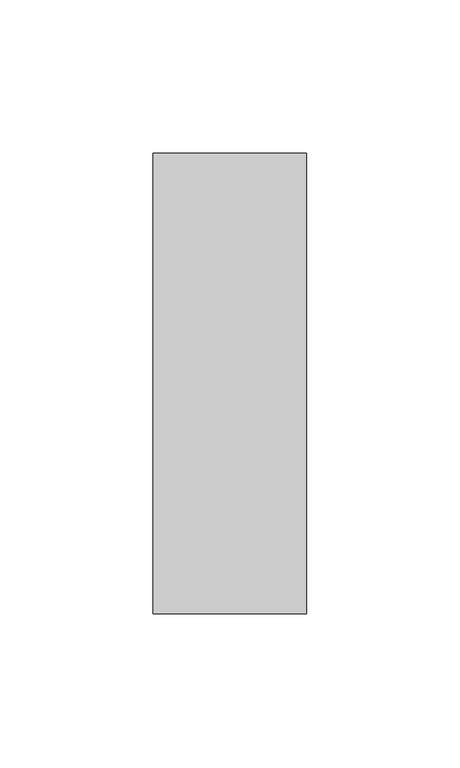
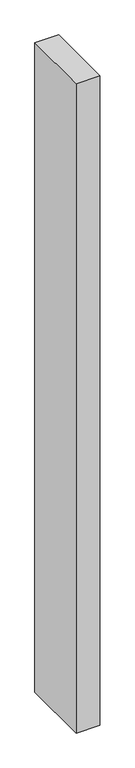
"""IFC4 building model written with IfcOpenShell, lengths in millimetres: member geometry, Прямоугольный импост : 50 x 150 мм."""

import ifcopenshell
import ifcopenshell.guid

model = None  # the IFC model being written
_history = None  # IfcOwnerHistory: only IFC2X3 demands one
_inside = {}  # id of a spatial element -> (the spatial element, [elements in it])
_under = {}  # id of a project, library or spatial element -> (it, [spatial elements below it])
_declared = {}  # id of a project -> (the project, [libraries it declares])
_typed = {}  # id of a type object -> (the type object, [elements of that type])
_made_of = {}  # id of a material, layer set ... -> (it, [elements and type objects made of it])


def new_model(schema):
    """Start an empty IFC model of exactly this schema.

    Asked for "IFC4X3", IfcOpenShell would pick the latest addendum, in which some entities
    have other attributes; the version numbers below select the first issue.
    IFC2X3 requires an IfcOwnerHistory on every rooted entity: one is made here for all.
    """
    global model, _history
    if schema == "IFC4X3":
        model = ifcopenshell.file(schema_version=(4, 3, 0, 0))
    else:
        model = ifcopenshell.file(schema=schema)
    _inside.clear()
    _under.clear()
    _declared.clear()
    _typed.clear()
    _made_of.clear()
    _history = None
    if model.schema == "IFC2X3":
        org = make("IfcOrganization", Name="unknown")
        user = make(
            "IfcPersonAndOrganization",
            ThePerson=make("IfcPerson", FamilyName="unknown"),
            TheOrganization=org,
        )
        app = make(
            "IfcApplication",
            ApplicationDeveloper=org,
            Version="unknown",
            ApplicationFullName="unknown",
            ApplicationIdentifier="unknown",
        )
        _history = make(
            "IfcOwnerHistory",
            OwningUser=user,
            OwningApplication=app,
            ChangeAction="ADDED",
            CreationDate=0,
        )
    return model


def make(cls, **values):
    """One entity of the class cls with the attributes given. An attribute that is None is left unset."""
    return model.create_entity(
        cls, **{name: value for name, value in values.items() if value is not None}
    )


def rooted(cls, **values):
    """An entity with a GlobalId (a new one), such as an element, a storey or a relation."""
    return make(cls, GlobalId=ifcopenshell.guid.new(), OwnerHistory=_history, **values)


def si_unit(unit_type, name, prefix=None):
    """IfcSIUnit, for example si_unit("LENGTHUNIT", "METRE", prefix="MILLI")."""
    return make("IfcSIUnit", UnitType=unit_type, Prefix=prefix, Name=name)


def assignment(units):
    """IfcUnitAssignment: the units of a project."""
    return None if units is None else make("IfcUnitAssignment", Units=units)


def point(xyz):
    """IfcCartesianPoint."""
    return None if xyz is None else make("IfcCartesianPoint", Coordinates=xyz)


def direction(xyz):
    """IfcDirection."""
    return None if xyz is None else make("IfcDirection", DirectionRatios=xyz)


def frame(location, z_axis=None, x_axis=None):
    """IfcAxis2Placement3D, a coordinate frame: its origin and axes. An axis left out is left unset."""
    return make(
        "IfcAxis2Placement3D",
        Location=point(location),
        Axis=direction(z_axis),
        RefDirection=direction(x_axis),
    )


def origin():
    """The frame at (0, 0, 0) with its axes left unset."""
    return frame((0.0, 0.0, 0.0))


def place(relative_to, where):
    """IfcLocalPlacement: puts the frame where relative to a parent placement (None: the world)."""
    return make(
        "IfcLocalPlacement", PlacementRelTo=relative_to, RelativePlacement=where
    )


def context(
    kind, dimensions, precision=None, world=None, true_north=None, identifier=None
):
    """IfcGeometricRepresentationContext, for example the 3D "Model" context."""
    return make(
        "IfcGeometricRepresentationContext",
        ContextIdentifier=identifier,
        ContextType=kind,
        CoordinateSpaceDimension=dimensions,
        Precision=precision,
        WorldCoordinateSystem=world,
        TrueNorth=true_north,
    )


def project(units=None, contexts=None):
    """IfcProject with its units and contexts."""
    return rooted(
        "IfcProject",
        Name="project",
        RepresentationContexts=contexts,
        UnitsInContext=assignment(units),
    )


def spatial(cls, under=None, at=None, **own):
    """A site, building, storey or space (cls), placed at a placement, below another one or the project."""
    s = rooted(cls, ObjectPlacement=at, **own)
    if under is not None:
        _under.setdefault(under.id(), (under, []))[1].append(s)
    return s


def polyline(points):
    """IfcPolyline through the points."""
    return make("IfcPolyline", Points=[point(p) for p in points])


def outline(outer, holes=None, kind="AREA"):
    """IfcArbitraryClosedProfileDef: a profile drawn as a closed curve; with holes, ...WithVoids."""
    if holes is None:
        return make("IfcArbitraryClosedProfileDef", ProfileType=kind, OuterCurve=outer)
    return make(
        "IfcArbitraryProfileDefWithVoids",
        ProfileType=kind,
        OuterCurve=outer,
        InnerCurves=holes,
    )


def extrude(swept, where, along, depth):
    """IfcExtrudedAreaSolid: the profile swept, set in the frame where, extruded along a direction by depth."""
    return make(
        "IfcExtrudedAreaSolid",
        SweptArea=swept,
        Position=where,
        ExtrudedDirection=direction(along),
        Depth=depth,
    )


def shape(context_of_items, identifier, shape_type, items):
    """IfcShapeRepresentation: the items that make up one representation, for example the "Body"."""
    return make(
        "IfcShapeRepresentation",
        ContextOfItems=context_of_items,
        RepresentationIdentifier=identifier,
        RepresentationType=shape_type,
        Items=items,
    )


def source(mapping_origin, context_of_items, identifier, shape_type, items):
    """IfcRepresentationMap: a shape defined once, which mapped items show again and again."""
    return make(
        "IfcRepresentationMap",
        MappingOrigin=mapping_origin,
        MappedRepresentation=shape(context_of_items, identifier, shape_type, items),
    )


def transform(
    local_origin,
    x_axis=None,
    y_axis=None,
    z_axis=None,
    scale=None,
    scale2=None,
    scale3=None,
    uniform=True,
):
    """IfcCartesianTransformationOperator3D, or its non-uniform kind. x_axis, y_axis, z_axis: its Axis1, 2, 3."""
    if uniform:
        return make(
            "IfcCartesianTransformationOperator3D",
            Axis1=direction(x_axis),
            Axis2=direction(y_axis),
            LocalOrigin=point(local_origin),
            Scale=scale,
            Axis3=direction(z_axis),
        )
    return make(
        "IfcCartesianTransformationOperator3DnonUniform",
        Axis1=direction(x_axis),
        Axis2=direction(y_axis),
        LocalOrigin=point(local_origin),
        Scale=scale,
        Axis3=direction(z_axis),
        Scale2=scale2,
        Scale3=scale3,
    )


def mapped(mapping_source, mapping_target):
    """IfcMappedItem: shows the shape of a source again, moved by a transform."""
    return make(
        "IfcMappedItem", MappingSource=mapping_source, MappingTarget=mapping_target
    )


def made_of(thing, what):
    """Note that an element or type object is made of a material, layer set ...; save() writes the relation."""
    if what is not None:
        _made_of.setdefault(what.id(), (what, []))[1].append(thing)
    return thing


def element(
    cls,
    number,
    at=None,
    inside=None,
    cuts=None,
    type_object=None,
    material=None,
    context=None,
    identifier="Body",
    shape_type=None,
    held_by="IfcProductDefinitionShape",
    body=None,
    shapes=None,
    **own,
):
    """One element of the class cls, such as IfcWall. Its Tag is "e" and its number.

    at: its placement. inside: the storey or other place that contains it. cuts: it is an
    opening in that element (IfcRelVoidsElement). A single representation is given by context,
    identifier, shape_type and body (its items); several are given by shapes. held_by: the class
    of the entity that holds the representations. save() writes the other relations.
    """
    e = rooted(cls, Tag="e%d" % number, ObjectPlacement=at, **own)
    if body is not None:
        shapes = [shape(context, identifier, shape_type, body)]
    if shapes is not None:
        e.Representation = make(held_by, Representations=shapes)
    if inside is not None:
        _inside.setdefault(inside.id(), (inside, []))[1].append(e)
    if cuts is not None:
        rooted(
            "IfcRelVoidsElement", RelatingBuildingElement=cuts, RelatedOpeningElement=e
        )
    if type_object is not None:
        _typed.setdefault(type_object.id(), (type_object, []))[1].append(e)
    return made_of(e, material)


def aggregate(whole, parts):
    """IfcRelAggregates: a whole, such as a stair, and the parts it consists of."""
    return rooted("IfcRelAggregates", RelatingObject=whole, RelatedObjects=parts)


def save(model, path):
    """Write the relations noted so far, then the file.

    IfcRelAggregates (storeys below a building ...), IfcRelContainedInSpatialStructure (elements
    in a storey), IfcRelDefinesByType, IfcRelAssociatesMaterial and IfcRelDeclares: one each for
    every whole, place, type object, material and project.
    """
    for whole, parts in _under.values():
        aggregate(whole, parts)
    for where, things in _inside.values():
        rooted(
            "IfcRelContainedInSpatialStructure",
            RelatedElements=things,
            RelatingStructure=where,
        )
    for kind, things in _typed.values():
        rooted("IfcRelDefinesByType", RelatedObjects=things, RelatingType=kind)
    for what, things in _made_of.values():
        rooted("IfcRelAssociatesMaterial", RelatedObjects=things, RelatingMaterial=what)
    for by, libraries in _declared.values():
        rooted("IfcRelDeclares", RelatingContext=by, RelatedDefinitions=libraries)
    model.write(path)


def member_2155f22f(model_context):
    return source(origin(), model_context, "Body", "SweptSolid", [
        extrude(outline(polyline([(25.0, 75.0), (25.0, -75.0), (-25.0, -75.0), (-25.0, 75.0), (25.0, 75.0)])), frame((0.0, 0.0, -1444.0819491), z_axis=(0.0, 0.0, 1.0), x_axis=(1.0, 0.0, 0.0)), (0.0, 0.0, 1.0), 1444.0819491),
    ])


if __name__ == "__main__":
    model = new_model("IFC4")
    model_context = context("Model", 3, world=origin())
    ifc_project = project(units=[si_unit("LENGTHUNIT", "METRE", prefix="MILLI")], contexts=[model_context])
    site = spatial("IfcSite", under=ifc_project)
    building = spatial("IfcBuilding", under=site)
    placement = place(None, origin())
    member_shape = member_2155f22f(model_context)
    element("IfcMember", 1, ObjectType="Прямоугольный импост : 50 x 150 мм", at=placement, inside=building, context=model_context, shape_type="MappedRepresentation", body=[
        mapped(member_shape, transform((0.0, 0.0, 0.0), x_axis=(1.0, 0.0, 0.0), y_axis=(0.0, 1.0, 0.0), z_axis=(0.0, 0.0, 1.0))),
    ])
    save(model, "model.ifc")
